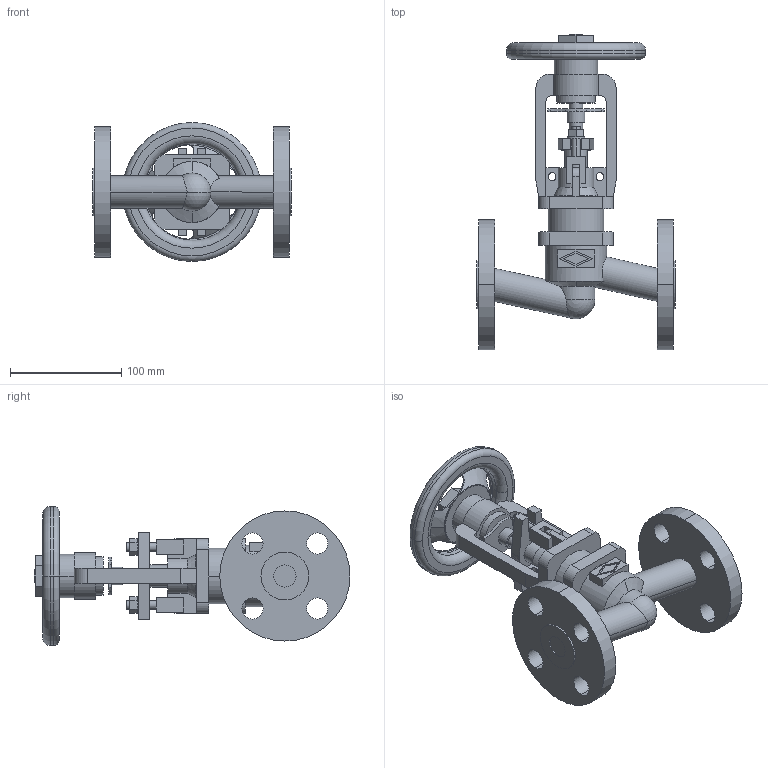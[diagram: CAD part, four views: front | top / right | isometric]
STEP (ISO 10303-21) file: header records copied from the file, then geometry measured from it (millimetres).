
FILE_DESCRIPTION(('OneSpaceDesigner STEP Export'),'2;1');
FILE_NAME('c000004194.stp','2010-04-30T 8:36:55',(''),(''),'OneSpace Designer STEP processor for AP214 (Solid Model)','OneSpace Modeling 15.50B 03-Nov-2007 (C) CoCreate Software GmbH','');
FILE_SCHEMA(('AUTOMOTIVE_DESIGN { 1 0 10303 214 1 1 1 1 }'));
Length unit declared in the file: millimetre
Products named in the file (1): 1
Bounding box: 178 x 284 x 125 mm (x, y, z)
Volume: 865229.9 mm3; surface area: 163679.8 mm2
Topology: 1 solids, 1 shells, 283 faces, 755 edges, 496 vertices
Faces by surface type: plane 140, cylinder 113, cone 14, torus 14, sphere 2
Entity records: 11112 total; most frequent: CARTESIAN_POINT 2123, ORIENTED_EDGE 1506, DIRECTION 1250, EDGE_CURVE 753, VERTEX_POINT 496, VECTOR 418, LINE 418, AXIS2_PLACEMENT_3D 416
